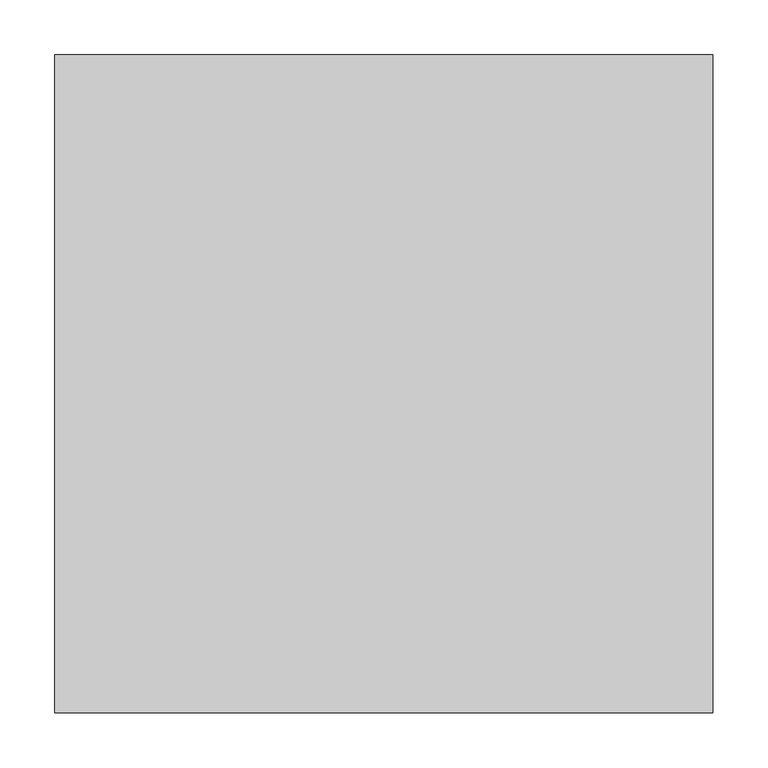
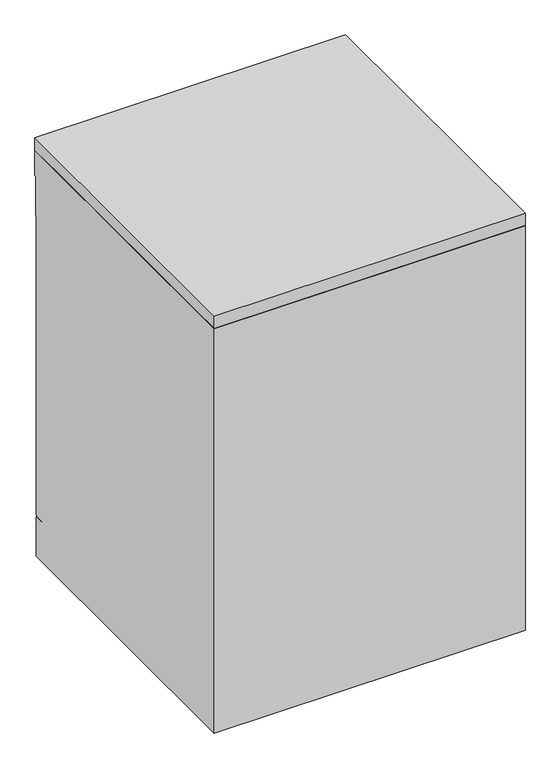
"""IFC4 building model written with IfcOpenShell, lengths in millimetres: proxy geometry, Lave vaisselle - 01 : 600 mm x 600 mm x 850 mm."""

from ifc_helpers import new_model, si_unit, frame, origin, place, context, project, spatial, polyline, circle_curve, outline, extrude, source, transform, mapped, element, save
from ifc_brep_helpers import plane_surface, revolved_surface, advanced_brep


def specialty_equipment_bf6b49e3(model_context):
    return source(origin(), model_context, "Body", "SolidModel", [
        advanced_brep(
        [(261.5050516, -438.8202178, 825.0), (261.5050516, -438.8202178, 0.0), (261.5050516, 156.1797822, 0.0), (261.5050516, 156.1797822, 80.0), (261.5050516, 136.1797822, 80.0), (261.5050516, 136.1797822, 82.0101596), (261.5050516, 153.8705006, 82.0101596), (261.5050516, 156.1797822, 84.3194411), (261.5050516, 156.1797822, 693.5), (261.5050516, 158.6797822, 693.5), (261.5050516, 158.6797822, 773.5), (261.5050516, 161.1797822, 773.5), (261.5050516, 161.1797822, 823.5), (261.5050516, 136.1797822, 823.5), (261.5050516, 136.1797822, 825.0), (-338.4949484, -438.8202178, 825.0), (-338.4949484, 136.1797822, 825.0), (-338.4949484, 136.1797822, 823.5), (-338.4949484, 161.1797822, 823.5), (-338.4949484, 161.1797822, 773.5), (-338.4949484, 158.6797822, 773.5), (-338.4949484, 158.6797822, 693.5), (-338.4949484, 156.1797822, 693.5), (-338.4949484, 156.1797822, 84.3194411), (-338.4949484, 153.8705006, 82.0101596), (-338.4949484, 136.1797822, 82.0101596), (-338.4949484, 136.1797822, 80.0), (-338.4949484, 156.1797822, 80.0), (-338.4949484, 156.1797822, 0.0), (-338.4949484, -438.8202178, 0.0), (21.5050516, 158.6797822, 773.5), (21.5050516, 153.6797822, 773.5), (-98.4949484, 153.6797822, 773.5), (-98.4949484, 158.6797822, 773.5), (-98.4949484, 158.6797822, 743.5), (21.5050516, 158.6797822, 743.5), (-98.4949484, 140.4468426, 790.1320323), (-98.4949484, 148.5674467, 748.355146), (-98.4949484, 154.4572098, 743.5), (-98.4949484, 153.6797822, 790.1320323), (21.5050516, 140.4468426, 790.1320323), (21.5050516, 153.6797822, 790.1320323), (21.5050516, 154.4572098, 743.5), (21.5050516, 148.5674467, 748.355146)],
        [
            (0, 1),
            (1, 2),
            (2, 3),
            (3, 4),
            (4, 5),
            (5, 6),
            (6, 7),
            (7, 8),
            (8, 9),
            (9, 10),
            (10, 11),
            (11, 12),
            (12, 13),
            (13, 14),
            (14, 0),
            (15, 16),
            (16, 17),
            (17, 18),
            (18, 19),
            (19, 20),
            (20, 21),
            (21, 22),
            (22, 23),
            (23, 24),
            (24, 25),
            (25, 26),
            (26, 27),
            (27, 28),
            (28, 29),
            (29, 15),
            (14, 16),
            (15, 0),
            (13, 17),
            (12, 18),
            (11, 19),
            (10, 30),
            (30, 31),
            (31, 32),
            (32, 33),
            (33, 20),
            (9, 21),
            (33, 34),
            (34, 35),
            (35, 30),
            (8, 22),
            (7, 23),
            (6, 24),
            (5, 25),
            (4, 26),
            (3, 27),
            (2, 28),
            (1, 29),
            (36, 37),
            (37, 38, circle_curve(frame((-98.4949484, 154.4572098, 749.5), z_axis=(1.0, 0.0, 0.0), x_axis=(0.0, 1.0, 0.0)), 6.0)),
            (38, 34),
            (32, 39),
            (39, 36),
            (40, 41),
            (41, 31),
            (35, 42),
            (42, 43, circle_curve(frame((21.5050516, 154.4572098, 749.5), z_axis=(-1.0, 0.0, 0.0), x_axis=(0.0, 1.0, 0.0)), 6.0)),
            (43, 40),
            (36, 40),
            (43, 37),
            (42, 38),
            (41, 39),
        ],
        [
            plane_surface(frame((261.5050516, -438.8202178, 825.0), z_axis=(1.0, 0.0, 0.0), x_axis=(0.0, 1.0, 0.0))),
            plane_surface(frame((-338.4949484, -438.8202178, 825.0), z_axis=(-1.0, 0.0, 0.0), x_axis=(0.0, -1.0, 0.0))),
            plane_surface(frame((261.5050516, -438.8202178, 825.0), z_axis=(0.0, 0.0, 1.0), x_axis=(-1.0, 0.0, 0.0))),
            plane_surface(frame((261.5050516, 136.1797822, 825.0), z_axis=(0.0, 1.0, 0.0), x_axis=(-1.0, 0.0, 0.0))),
            plane_surface(frame((261.5050516, 136.1797822, 823.5), z_axis=(0.0, 0.0, 1.0), x_axis=(-1.0, 0.0, 0.0))),
            plane_surface(frame((261.5050516, 161.1797822, 823.5), z_axis=(0.0, 1.0, 0.0), x_axis=(-1.0, 0.0, 0.0))),
            plane_surface(frame((261.5050516, 161.1797822, 773.5), z_axis=(0.0, 0.0, -1.0), x_axis=(-1.0, 0.0, 0.0))),
            plane_surface(frame((261.5050516, 158.6797822, 773.5), z_axis=(0.0, 1.0, 0.0), x_axis=(-1.0, 0.0, 0.0))),
            plane_surface(frame((261.5050516, 158.6797822, 693.5), z_axis=(0.0, 0.0, -1.0), x_axis=(-1.0, 0.0, 0.0))),
            plane_surface(frame((261.5050516, 156.1797822, 693.5), z_axis=(0.0, 1.0, 0.0), x_axis=(-1.0, 0.0, 0.0))),
            plane_surface(frame((261.5050516, 156.1797822, 84.3194411), z_axis=(0.0, 0.7071067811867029, -0.7071067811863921), x_axis=(-1.0, 0.0, 0.0))),
            plane_surface(frame((261.5050516, 153.8705006, 82.0101596), z_axis=(0.0, 0.0, -1.0), x_axis=(-1.0, 0.0, 0.0))),
            plane_surface(frame((261.5050516, 136.1797822, 82.0101596), z_axis=(0.0, 1.0, 0.0), x_axis=(-1.0, 0.0, 0.0))),
            plane_surface(frame((261.5050516, 136.1797822, 80.0), z_axis=(0.0, 0.0, 1.0), x_axis=(-1.0, 0.0, 0.0))),
            plane_surface(frame((261.5050516, 156.1797822, 80.0), z_axis=(0.0, 1.0, 0.0), x_axis=(-1.0, 0.0, 0.0))),
            plane_surface(frame((261.5050516, 156.1797822, 0.0), z_axis=(0.0, 0.0, -1.0), x_axis=(-1.0, 0.0, 0.0))),
            plane_surface(frame((261.5050516, -438.8202178, 0.0), z_axis=(0.0, -1.0, 0.0), x_axis=(-1.0, 0.0, 0.0))),
            plane_surface(frame((-98.4949484, 140.4468426, 790.1320323), z_axis=(1.0, 0.0, 0.0), x_axis=(0.0, 0.19080899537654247, -0.9816271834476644))),
            plane_surface(frame((21.5050516, 140.4468426, 790.1320323), z_axis=(-1.0, 0.0, 0.0), x_axis=(0.0, -0.19080899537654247, 0.9816271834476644))),
            plane_surface(frame((-98.4949484, 140.4468426, 790.1320323), z_axis=(0.0, 0.9816271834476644, 0.19080899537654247), x_axis=(1.0, 0.0, 0.0))),
            revolved_surface(polyline([(-98.4949484, 160.4572098, 749.5), (21.5050516, 160.4572098, 749.5)]), (21.5050516, 154.4572098, 749.5), (-1.0, 0.0, 0.0)),
            plane_surface(frame((-98.4949484, 154.4572098, 743.5), z_axis=(0.0, 0.0, 1.0), x_axis=(1.0, 0.0, 0.0))),
            plane_surface(frame((-98.4949484, 153.6797822, 773.5), z_axis=(0.0, -1.0, 0.0), x_axis=(1.0, 0.0, 0.0))),
            plane_surface(frame((-98.4949484, 153.6797822, 790.1320323), z_axis=(0.0, 0.0, -1.0), x_axis=(1.0, 0.0, 0.0))),
        ],
        [
            (0, [[1, 2, 3, 4, 5, 6, 7, 8, 9, 10, 11, 12, 13, 14, 15]]),
            (1, [[16, 17, 18, 19, 20, 21, 22, 23, 24, 25, 26, 27, 28, 29, 30]]),
            (2, [[31, -16, 32, -15]]),
            (3, [[33, -17, -31, -14]]),
            (4, [[34, -18, -33, -13]]),
            (5, [[35, -19, -34, -12]]),
            (6, [[36, 37, 38, 39, 40, -20, -35, -11]]),
            (7, [[41, -21, -40, 42, 43, 44, -36, -10]]),
            (8, [[45, -22, -41, -9]]),
            (9, [[46, -23, -45, -8]]),
            (10, [[47, -24, -46, -7]]),
            (11, [[48, -25, -47, -6]]),
            (12, [[49, -26, -48, -5]]),
            (13, [[50, -27, -49, -4]]),
            (14, [[51, -28, -50, -3]]),
            (15, [[52, -29, -51, -2]]),
            (16, [[-32, -30, -52, -1]]),
            (17, [[53, 54, 55, -42, -39, 56, 57]]),
            (18, [[58, 59, -37, -44, 60, 61, 62]]),
            (19, [[63, -62, 64, -53]]),
            (20, [[-64, -61, 65, -54]]),
            (21, [[-65, -60, -43, -55]]),
            (22, [[-38, -59, 66, -56]]),
            (23, [[-66, -58, -63, -57]]),
        ],
    ),
        extrude(outline(polyline([(261.5050516, -438.8202178), (-338.4949484, -438.8202178), (-338.4949484, 161.1797822), (261.5050516, 161.1797822), (261.5050516, -438.8202178)])), frame((0.0, 0.0, 825.0), z_axis=(0.0, 0.0, 1.0), x_axis=(1.0, 0.0, 0.0)), (0.0, 0.0, 1.0), 25.0),
        extrude(outline(polyline([(-301.7027601, 160.6797822), (-301.7027601, 158.6797822), (-316.7027601, 158.6797822), (-316.7027601, 160.6797822), (-301.7027601, 160.6797822)])), frame((0.0, 0.0, 709.3739052), z_axis=(0.0, 0.0, 1.0), x_axis=(1.0, 0.0, 0.0)), (0.0, 0.0, 1.0), 15.0),
        extrude(outline(polyline([(232.8974697, 160.6797822), (232.8974697, 158.6797822), (61.6221361, 158.6797822), (61.6221361, 160.6797822), (232.8974697, 160.6797822)])), frame((0.0, 0.0, 709.3739052), z_axis=(0.0, 0.0, 1.0), x_axis=(1.0, 0.0, 0.0)), (0.0, 0.0, 1.0), 15.0),
        extrude(outline(polyline([(232.8974697, 160.6797822), (232.8974697, 158.6797822), (214.4683814, 158.6797822), (214.4683814, 160.6797822), (232.8974697, 160.6797822)])), frame((0.0, 0.0, 753.5681394), z_axis=(0.0, 0.0, 1.0), x_axis=(1.0, 0.0, 0.0)), (0.0, 0.0, 1.0), 5.0),
        extrude(outline(polyline([(232.8974697, 160.6797822), (232.8974697, 158.6797822), (214.4683814, 158.6797822), (214.4683814, 160.6797822), (232.8974697, 160.6797822)])), frame((0.0, 0.0, 733.5681394), z_axis=(0.0, 0.0, 1.0), x_axis=(1.0, 0.0, 0.0)), (0.0, 0.0, 1.0), 5.0),
        extrude(outline(polyline([(232.8974697, 160.6797822), (232.8974697, 158.6797822), (214.4683814, 158.6797822), (214.4683814, 160.6797822), (232.8974697, 160.6797822)])), frame((0.0, 0.0, 743.5681394), z_axis=(0.0, 0.0, 1.0), x_axis=(1.0, 0.0, 0.0)), (0.0, 0.0, 1.0), 5.0),
    ])


if __name__ == "__main__":
    model = new_model("IFC4")
    model_context = context("Model", 3, world=origin())
    ifc_project = project(units=[si_unit("LENGTHUNIT", "METRE", prefix="MILLI")], contexts=[model_context])
    site = spatial("IfcSite", under=ifc_project)
    building = spatial("IfcBuilding", under=site)
    placement = place(None, origin())
    specialty_equipment_shape = specialty_equipment_bf6b49e3(model_context)
    element("IfcBuildingElementProxy", 1, Name="Lave vaisselle - 01 : 600 mm x 600 mm x 850 mm", ObjectType="Lave vaisselle - 01 : 600 mm x 600 mm x 850 mm", at=placement, inside=building, context=model_context, shape_type="MappedRepresentation", body=[
        mapped(specialty_equipment_shape, transform((0.0, 0.0, 0.0), x_axis=(1.0, 0.0, 0.0), y_axis=(0.0, 1.0, 0.0), z_axis=(0.0, 0.0, 1.0))),
    ])
    save(model, "model.ifc")
